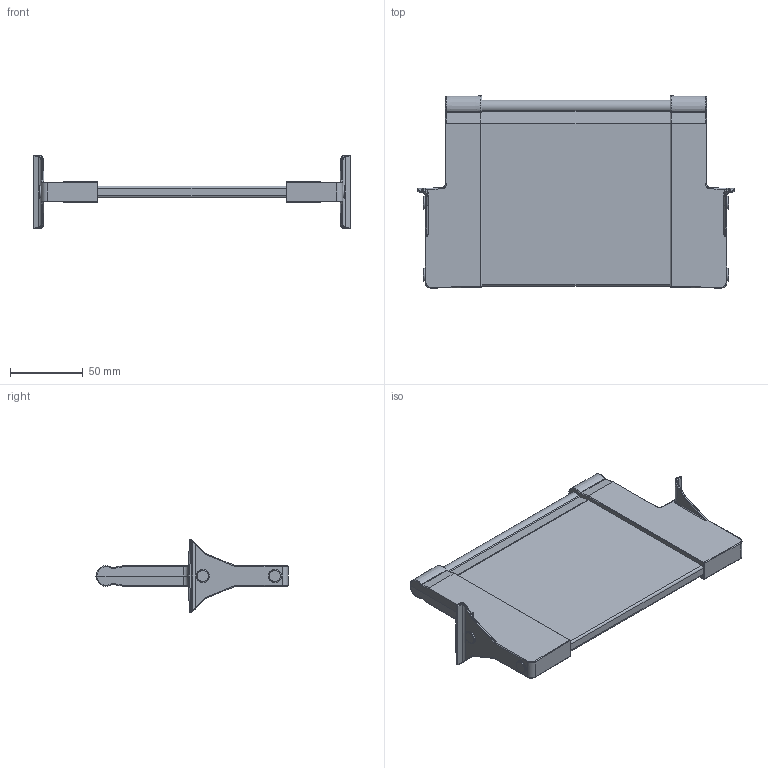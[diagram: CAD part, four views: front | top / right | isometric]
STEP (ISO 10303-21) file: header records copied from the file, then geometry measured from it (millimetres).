
FILE_DESCRIPTION (( 'STEP AP214' ), '1' );
FILE_NAME ('Nova-Pro P622 Querteiler H90Nova PRO Querteiler_H90_KAB 300_16.step', '2009-11-06T06:59:14', ( 'Waldinger Reinhard' ), ( 'Grass GmbH' ), 'SwSTEP 2.0', 'SolidWorks 2009', '' );
FILE_SCHEMA (( 'AUTOMOTIVE_DESIGN' ));
Length unit declared in the file: millimetre
Products named in the file (1): Nova-Pro P622 Querteiler H90Nova PRO Querteiler_H90_KAB 300_16
Bounding box: 218.1 x 132 x 49.97 mm (x, y, z)
Volume: 249209.5 mm3; surface area: 61289.1 mm2
Topology: 1 solids, 1 shells, 248 faces, 578 edges, 334 vertices
Faces by surface type: cylinder 107, bspline 64, plane 51, torus 12, sphere 12, cone 2
Entity records: 11002 total; most frequent: CARTESIAN_POINT 5879, ORIENTED_EDGE 1148, DIRECTION 966, EDGE_CURVE 574, AXIS2_PLACEMENT_3D 369, VERTEX_POINT 334, EDGE_LOOP 254, FACE_OUTER_BOUND 248
